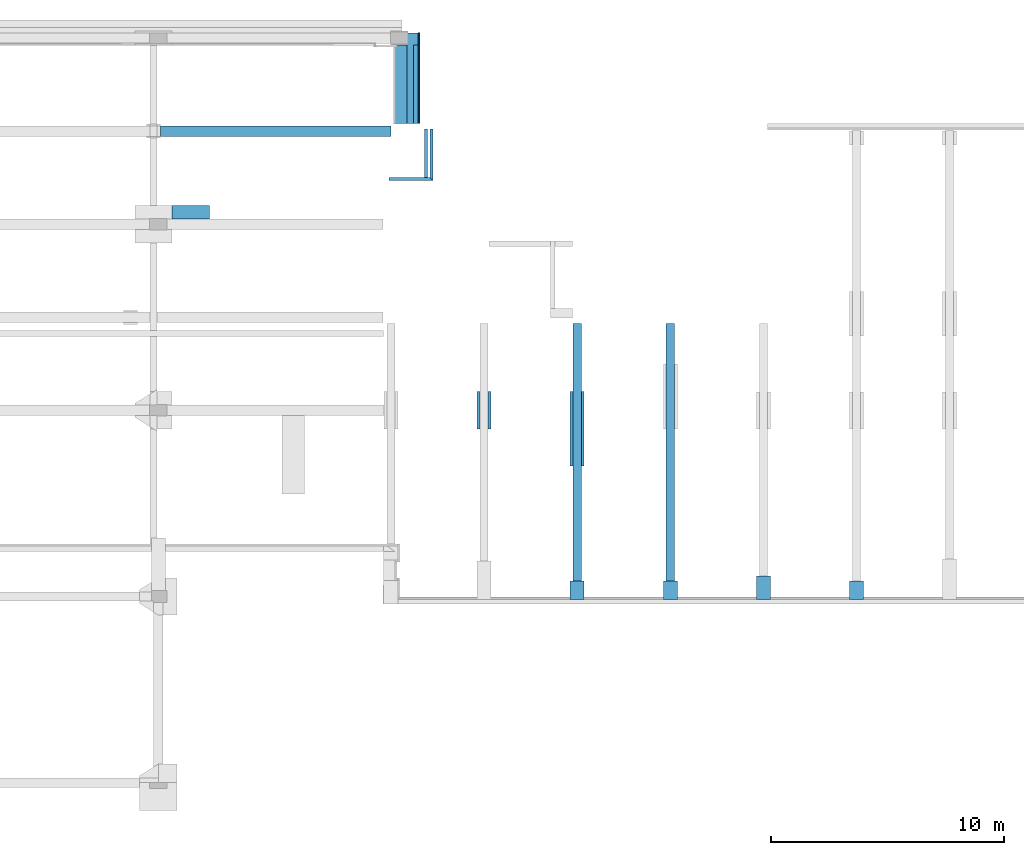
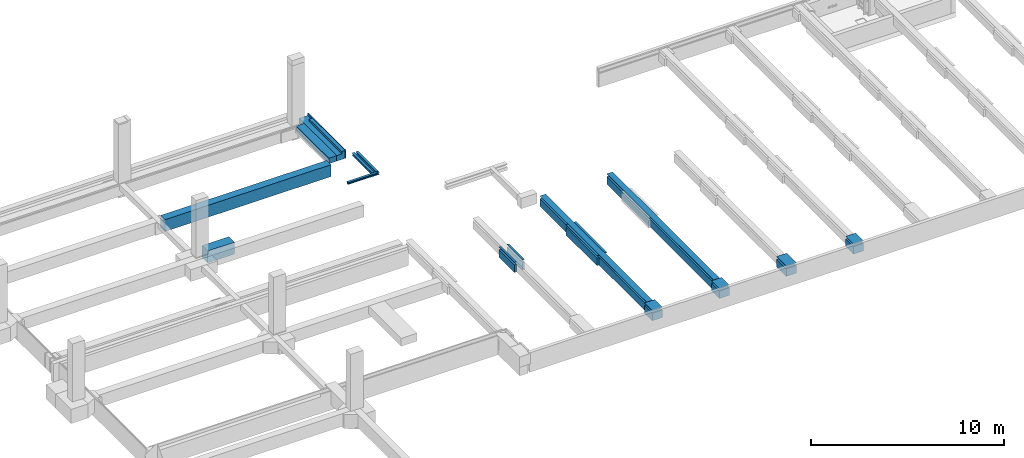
# One storey, part 4 of 17: 16 beams.
"""IFC2X3 building model written with IfcOpenShell, lengths in millimetres."""

import ifcopenshell
import ifcopenshell.guid

model = None  # the IFC model being written
_history = None  # IfcOwnerHistory: only IFC2X3 demands one
_inside = {}  # id of a spatial element -> (the spatial element, [elements in it])
_under = {}  # id of a project, library or spatial element -> (it, [spatial elements below it])
_declared = {}  # id of a project -> (the project, [libraries it declares])
_typed = {}  # id of a type object -> (the type object, [elements of that type])
_made_of = {}  # id of a material, layer set ... -> (it, [elements and type objects made of it])


def new_model(schema):
    """Start an empty IFC model of exactly this schema.

    Asked for "IFC4X3", IfcOpenShell would pick the latest addendum, in which some entities
    have other attributes; the version numbers below select the first issue.
    IFC2X3 requires an IfcOwnerHistory on every rooted entity: one is made here for all.
    """
    global model, _history
    if schema == "IFC4X3":
        model = ifcopenshell.file(schema_version=(4, 3, 0, 0))
    else:
        model = ifcopenshell.file(schema=schema)
    _inside.clear()
    _under.clear()
    _declared.clear()
    _typed.clear()
    _made_of.clear()
    _history = None
    if model.schema == "IFC2X3":
        org = make("IfcOrganization", Name="unknown")
        user = make(
            "IfcPersonAndOrganization",
            ThePerson=make("IfcPerson", FamilyName="unknown"),
            TheOrganization=org,
        )
        app = make(
            "IfcApplication",
            ApplicationDeveloper=org,
            Version="unknown",
            ApplicationFullName="unknown",
            ApplicationIdentifier="unknown",
        )
        _history = make(
            "IfcOwnerHistory",
            OwningUser=user,
            OwningApplication=app,
            ChangeAction="ADDED",
            CreationDate=0,
        )
    return model


def make(cls, **values):
    """One entity of the class cls with the attributes given. An attribute that is None is left unset."""
    return model.create_entity(
        cls, **{name: value for name, value in values.items() if value is not None}
    )


def entity(cls, *values):
    """Any entity or typed value of the class cls, its attributes in the order of the schema. None: left unset."""
    e = model.create_entity(cls)
    for i, value in enumerate(values):
        if value is not None:
            e[i] = value
    return e


def rooted(cls, **values):
    """An entity with a GlobalId (a new one), such as an element, a storey or a relation."""
    return make(cls, GlobalId=ifcopenshell.guid.new(), OwnerHistory=_history, **values)


def si_unit(unit_type, name, prefix=None):
    """IfcSIUnit, for example si_unit("LENGTHUNIT", "METRE", prefix="MILLI")."""
    return make("IfcSIUnit", UnitType=unit_type, Prefix=prefix, Name=name)


def converted_unit(unit_type, name, factor, base, dimensions=None, offset=None):
    """IfcConversionBasedUnit, such as the inch: factor (a typed value) times the base unit."""
    return make(
        "IfcConversionBasedUnit"
        if offset is None
        else "IfcConversionBasedUnitWithOffset",
        ConversionOffset=offset,
        Dimensions=None
        if dimensions is None
        else entity("IfcDimensionalExponents", *dimensions),
        UnitType=unit_type,
        Name=name,
        ConversionFactor=make(
            "IfcMeasureWithUnit", ValueComponent=factor, UnitComponent=base
        ),
    )


def derived_unit(unit_type, elements):
    """IfcDerivedUnit: a product of units, each with its exponent."""
    return make(
        "IfcDerivedUnit",
        Elements=[
            make("IfcDerivedUnitElement", Unit=unit, Exponent=power)
            for unit, power in elements
        ],
        UnitType=unit_type,
    )


def money_unit(currency):
    """IfcMonetaryUnit."""
    return make("IfcMonetaryUnit", Currency=currency)


def assignment(units):
    """IfcUnitAssignment: the units of a project."""
    return None if units is None else make("IfcUnitAssignment", Units=units)


def point(xyz):
    """IfcCartesianPoint."""
    return None if xyz is None else make("IfcCartesianPoint", Coordinates=xyz)


def direction(xyz):
    """IfcDirection."""
    return None if xyz is None else make("IfcDirection", DirectionRatios=xyz)


def frame(location, z_axis=None, x_axis=None):
    """IfcAxis2Placement3D, a coordinate frame: its origin and axes. An axis left out is left unset."""
    return make(
        "IfcAxis2Placement3D",
        Location=point(location),
        Axis=direction(z_axis),
        RefDirection=direction(x_axis),
    )


def origin_with_axes():
    """The frame at (0, 0, 0) with the z axis (0, 0, 1) and the x axis (1, 0, 0) written out."""
    return frame((0.0, 0.0, 0.0), z_axis=(0.0, 0.0, 1.0), x_axis=(1.0, 0.0, 0.0))


def place(relative_to, where):
    """IfcLocalPlacement: puts the frame where relative to a parent placement (None: the world)."""
    return make(
        "IfcLocalPlacement", PlacementRelTo=relative_to, RelativePlacement=where
    )


def context(
    kind, dimensions, precision=None, world=None, true_north=None, identifier=None
):
    """IfcGeometricRepresentationContext, for example the 3D "Model" context."""
    return make(
        "IfcGeometricRepresentationContext",
        ContextIdentifier=identifier,
        ContextType=kind,
        CoordinateSpaceDimension=dimensions,
        Precision=precision,
        WorldCoordinateSystem=world,
        TrueNorth=true_north,
    )


def subcontext(parent, identifier, kind, view, scale=None):
    """IfcGeometricRepresentationSubContext, for example "Body" below "Model"."""
    return make(
        "IfcGeometricRepresentationSubContext",
        ContextIdentifier=identifier,
        ContextType=kind,
        ParentContext=parent,
        TargetScale=scale,
        TargetView=view,
    )


def project(units=None, contexts=None):
    """IfcProject with its units and contexts."""
    return rooted(
        "IfcProject",
        Name="project",
        RepresentationContexts=contexts,
        UnitsInContext=assignment(units),
    )


def spatial(cls, under=None, at=None, **own):
    """A site, building, storey or space (cls), placed at a placement, below another one or the project."""
    s = rooted(cls, ObjectPlacement=at, **own)
    if under is not None:
        _under.setdefault(under.id(), (under, []))[1].append(s)
    return s


def faces_of(points, faces, orient=None, outer=None):
    """IfcFace entities. A face is a list of loops; a loop is a list of indices into points, from 0.

    orient and outer hold one flag for each loop. By default every Orientation is true, the
    first loop of a face is its IfcFaceOuterBound and the others are IfcFaceBound.
    """
    made = []
    for i, loops in enumerate(faces):
        bounds = []
        for j, loop in enumerate(loops):
            is_outer = j == 0 if outer is None else outer[i][j]
            bounds.append(
                make(
                    "IfcFaceOuterBound" if is_outer else "IfcFaceBound",
                    Bound=make("IfcPolyLoop", Polygon=[points[k] for k in loop]),
                    Orientation=True if orient is None else orient[i][j],
                )
            )
        made.append(make("IfcFace", Bounds=bounds))
    return made


def faceted_brep(points, faces, orient=None, outer=None, voids=None):
    """IfcFacetedBrep: a solid bounded by flat faces; with voids (closed shells), ...WithVoids."""
    shared = [point(p) for p in points]
    hull = make("IfcClosedShell", CfsFaces=faces_of(shared, faces, orient, outer))
    if voids is None:
        return make("IfcFacetedBrep", Outer=hull)
    return make(
        "IfcFacetedBrepWithVoids",
        Outer=hull,
        Voids=[
            make(cls, CfsFaces=faces_of(shared, fs, o, b)) for cls, fs, o, b in voids
        ],
    )


def shape(context_of_items, identifier, shape_type, items):
    """IfcShapeRepresentation: the items that make up one representation, for example the "Body"."""
    return make(
        "IfcShapeRepresentation",
        ContextOfItems=context_of_items,
        RepresentationIdentifier=identifier,
        RepresentationType=shape_type,
        Items=items,
    )


def material(Name=None, Category=None):
    """IfcMaterial."""
    return make("IfcMaterial", Name=Name, Category=Category)


def made_of(thing, what):
    """Note that an element or type object is made of a material, layer set ...; save() writes the relation."""
    if what is not None:
        _made_of.setdefault(what.id(), (what, []))[1].append(thing)
    return thing


def type_object(cls, material=None, **own):
    """A type object (cls), such as IfcWallType, which elements share."""
    return made_of(rooted(cls, **own), material)


def element(
    cls,
    number,
    at=None,
    inside=None,
    cuts=None,
    type_object=None,
    material=None,
    context=None,
    identifier="Body",
    shape_type=None,
    held_by="IfcProductDefinitionShape",
    body=None,
    shapes=None,
    **own,
):
    """One element of the class cls, such as IfcWall. Its Tag is "e" and its number.

    at: its placement. inside: the storey or other place that contains it. cuts: it is an
    opening in that element (IfcRelVoidsElement). A single representation is given by context,
    identifier, shape_type and body (its items); several are given by shapes. held_by: the class
    of the entity that holds the representations. save() writes the other relations.
    """
    e = rooted(cls, Tag="e%d" % number, ObjectPlacement=at, **own)
    if body is not None:
        shapes = [shape(context, identifier, shape_type, body)]
    if shapes is not None:
        e.Representation = make(held_by, Representations=shapes)
    if inside is not None:
        _inside.setdefault(inside.id(), (inside, []))[1].append(e)
    if cuts is not None:
        rooted(
            "IfcRelVoidsElement", RelatingBuildingElement=cuts, RelatedOpeningElement=e
        )
    if type_object is not None:
        _typed.setdefault(type_object.id(), (type_object, []))[1].append(e)
    return made_of(e, material)


def aggregate(whole, parts):
    """IfcRelAggregates: a whole, such as a stair, and the parts it consists of."""
    return rooted("IfcRelAggregates", RelatingObject=whole, RelatedObjects=parts)


def save(model, path):
    """Write the relations noted so far, then the file.

    IfcRelAggregates (storeys below a building ...), IfcRelContainedInSpatialStructure (elements
    in a storey), IfcRelDefinesByType, IfcRelAssociatesMaterial and IfcRelDeclares: one each for
    every whole, place, type object, material and project.
    """
    for whole, parts in _under.values():
        aggregate(whole, parts)
    for where, things in _inside.values():
        rooted(
            "IfcRelContainedInSpatialStructure",
            RelatedElements=things,
            RelatingStructure=where,
        )
    for kind, things in _typed.values():
        rooted("IfcRelDefinesByType", RelatedObjects=things, RelatingType=kind)
    for what, things in _made_of.values():
        rooted("IfcRelAssociatesMaterial", RelatedObjects=things, RelatingMaterial=what)
    for by, libraries in _declared.values():
        rooted("IfcRelDeclares", RelatingContext=by, RelatedDefinitions=libraries)
    model.write(path)


model = new_model("IFC2X3")

# Units and contexts
model_context = context("Model", 3, precision=0.01, world=origin_with_axes(), true_north=direction((0.0, 1.0)))
body_context = subcontext(model_context, "Body", "Model", "MODEL_VIEW")
ifc_project = project(units=[si_unit("LENGTHUNIT", "METRE", prefix="MILLI"), si_unit("AREAUNIT", "SQUARE_METRE"), si_unit("VOLUMEUNIT", "CUBIC_METRE"), converted_unit("PLANEANGLEUNIT", "DEGREE", entity("IfcPlaneAngleMeasure", 0.0174532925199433), si_unit("PLANEANGLEUNIT", "RADIAN"), dimensions=[0, 0, 0, 0, 0, 0, 0]), money_unit("EUR"), converted_unit("TIMEUNIT", "Year", entity("IfcTimeMeasure", 31557600.0), si_unit("TIMEUNIT", "SECOND"), dimensions=[0, 0, 1, 0, 0, 0, 0]), si_unit("MASSUNIT", "GRAM", prefix="KILO"), si_unit("THERMODYNAMICTEMPERATUREUNIT", "DEGREE_CELSIUS"), si_unit("LUMINOUSINTENSITYUNIT", "LUMEN"), si_unit("ENERGYUNIT", "JOULE", prefix="MEGA"), derived_unit("THERMALCONDUCTANCEUNIT", [(si_unit("POWERUNIT", "WATT"), 1), (si_unit("LENGTHUNIT", "METRE"), -1), (si_unit("THERMODYNAMICTEMPERATUREUNIT", "KELVIN"), -1)]), derived_unit("SPECIFICHEATCAPACITYUNIT", [(si_unit("ENERGYUNIT", "JOULE"), 1), (si_unit("MASSUNIT", "GRAM", prefix="KILO"), -1), (si_unit("THERMODYNAMICTEMPERATUREUNIT", "KELVIN"), -1)]), derived_unit("MASSDENSITYUNIT", [(si_unit("MASSUNIT", "GRAM", prefix="KILO"), 1), (si_unit("VOLUMEUNIT", "CUBIC_METRE"), -1)])], contexts=[model_context])

# Site, building, storey
site_placement = place(None, origin_with_axes())
site = spatial("IfcSite", under=ifc_project, at=site_placement, Name="<site naam>", CompositionType="ELEMENT")
building_placement = place(site_placement, origin_with_axes())
building = spatial("IfcBuilding", under=site, at=building_placement, Name="<Naam gebouw>", CompositionType="ELEMENT")
storey_placement = place(building_placement, frame((0.0, 0.0, -1100.0), z_axis=(0.0, 0.0, 1.0), x_axis=(1.0, 0.0, 0.0)))
storey = spatial("IfcBuildingStorey", under=building, at=storey_placement, Name="-1 Fundering", CompositionType="ELEMENT", Elevation=-1100.0)

# Beams
ifc_material_1 = material(Name="beton_gewapend C")
beam_type_1 = type_object("IfcBeamType", Name="beton_gewapend C 600 x 650", PredefinedType="BEAM")
beam_1_placement = place(storey_placement, frame((32000.00000000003, 675.0000000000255, 1070.0), z_axis=(0.0, 0.0, 1.0), x_axis=(-1.0, 0.0, 0.0)))
element("IfcBeam", 1, at=beam_1_placement, inside=storey, type_object=beam_type_1, material=ifc_material_1, Name="28_Balk_beton_gewapend", ObjectType="BEAM", context=body_context, shape_type="Brep", body=[
    faceted_brep([(300.0000000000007, 0.0, -650.0000000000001), (300.0000000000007, 0.0, -170.0), (-299.9999999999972, 0.0, -170.0), (-299.9999999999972, 0.0, -650.0000000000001), (300.0000000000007, 800.0000000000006, -650.0000000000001), (300.0000000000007, 800.0000000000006, -170.0), (-299.9999999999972, 800.0000000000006, -170.0), (-299.9999999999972, 800.0000000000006, -650.0000000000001)], [[[0, 1, 2, 3]], [[4, 5, 1, 0]], [[5, 6, 2, 1]], [[3, 2, 6, 7]], [[4, 0, 3, 7]], [[7, 6, 5, 4]]]),
    faceted_brep([(-299.9999999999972, 800.0000000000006, 0.0), (-299.9999999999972, 800.0000000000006, -20.00000000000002), (-299.9999999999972, 0.0, -20.00000000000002), (-299.9999999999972, 0.0, 0.0), (300.0000000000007, 800.0000000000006, 0.0), (300.0000000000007, 800.0000000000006, -20.00000000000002), (300.0000000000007, 0.0, -20.00000000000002), (300.0000000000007, 0.0, 0.0)], [[[0, 1, 2, 3]], [[4, 5, 1, 0]], [[5, 6, 2, 1]], [[3, 2, 6, 7]], [[0, 3, 7, 4]], [[7, 6, 5, 4]]]),
])
beam_2_placement = place(storey_placement, frame((27999.93948843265, 875.702911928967, 1070.0), z_axis=(0.0, 0.0, 1.0), x_axis=(-0.9999999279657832, -0.0003795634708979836, 0.0)))
element("IfcBeam", 2, at=beam_2_placement, inside=storey, type_object=beam_type_1, material=ifc_material_1, Name="28_Balk_beton_gewapend", ObjectType="BEAM", context=body_context, shape_type="Brep", body=[
    faceted_brep([(-300.0000000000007, 0.0, -650.0000000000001), (-300.0000000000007, 0.0, -170.0), (-299.9999999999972, 999.8860589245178, -170.0), (-299.9999999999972, 999.8860589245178, -650.0000000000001), (300.0000000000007, 0.0, -650.0000000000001), (300.0000000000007, 0.0, -170.0), (300.0000000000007, 999.8860589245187, -170.0), (300.0000000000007, 999.8860589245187, -650.0000000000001)], [[[0, 1, 2, 3]], [[4, 5, 1, 0]], [[5, 6, 2, 1]], [[3, 2, 6, 7]], [[4, 0, 3, 7]], [[7, 6, 5, 4]]]),
    faceted_brep([(300.0000000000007, 999.8860589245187, 0.0), (300.0000000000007, 999.8860589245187, -20.00000000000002), (-299.9999999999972, 999.8860589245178, -20.00000000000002), (-299.9999999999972, 999.8860589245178, 0.0), (300.0000000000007, 0.0, 0.0), (300.0000000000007, 0.0, -20.00000000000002), (-300.0000000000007, 0.0, -20.00000000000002), (-300.0000000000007, 0.0, 0.0)], [[[0, 1, 2, 3]], [[4, 5, 1, 0]], [[5, 6, 2, 1]], [[3, 2, 6, 7]], [[7, 4, 0, 3]], [[7, 6, 5, 4]]]),
])
beam_3_placement = place(storey_placement, frame((24000.00000000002, 675.0000000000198, 1070.0), z_axis=(0.0, 0.0, 1.0), x_axis=(-1.0, 0.0, 0.0)))
element("IfcBeam", 3, at=beam_3_placement, inside=storey, type_object=beam_type_1, material=ifc_material_1, Name="28_Balk_beton_gewapend", ObjectType="BEAM", context=body_context, shape_type="Brep", body=[
    faceted_brep([(300.0000000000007, 0.0, -650.0000000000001), (300.0000000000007, 0.0, -170.0), (-300.0000000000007, 0.0, -170.0), (-300.0000000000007, 0.0, -650.0000000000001), (300.0000000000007, 799.9999999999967, -650.0000000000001), (300.0000000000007, 799.9999999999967, -170.0), (-300.0000000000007, 799.9999999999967, -170.0), (-300.0000000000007, 799.9999999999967, -650.0000000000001)], [[[0, 1, 2, 3]], [[4, 5, 1, 0]], [[5, 6, 2, 1]], [[3, 2, 6, 7]], [[0, 3, 7, 4]], [[7, 6, 5, 4]]]),
    faceted_brep([(-300.0000000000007, 799.9999999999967, 0.0), (-300.0000000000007, 799.9999999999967, -20.00000000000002), (-300.0000000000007, 0.0, -20.00000000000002), (-300.0000000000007, 0.0, 0.0), (300.0000000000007, 799.9999999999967, 0.0), (300.0000000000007, 799.9999999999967, -20.00000000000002), (300.0000000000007, 0.0, -20.00000000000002), (300.0000000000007, 0.0, 0.0)], [[[0, 1, 2, 3]], [[4, 5, 1, 0]], [[5, 6, 2, 1]], [[3, 2, 6, 7]], [[3, 7, 4, 0]], [[7, 6, 5, 4]]]),
])
beam_4_placement = place(storey_placement, frame((20000.00000000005, 8800.000000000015, 1070.0), z_axis=(0.0, 0.0, 1.0), x_axis=(-1.0, 0.0, 0.0)))
element("IfcBeam", 4, at=beam_4_placement, inside=storey, type_object=beam_type_1, material=ifc_material_1, Name="28_Balk_beton_gewapend", ObjectType="BEAM", context=body_context, shape_type="Brep", body=[
    faceted_brep([(300.0000000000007, 0.0, -650.0000000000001), (300.0000000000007, 0.0, -170.0), (174.9999999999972, 0.0, -170.0), (174.9999999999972, 0.0, -650.0000000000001), (300.0000000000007, 3200.000000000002, -650.0000000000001), (300.0000000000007, 3200.000000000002, -170.0), (175.0000000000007, 3200.000000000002, -170.0), (175.0000000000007, 3200.000000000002, -650.0000000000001)], [[[0, 1, 2, 3]], [[4, 5, 1, 0]], [[5, 6, 2, 1]], [[3, 2, 6, 7]], [[7, 4, 0, 3]], [[7, 6, 5, 4]]]),
    faceted_brep([(-175.0000000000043, 0.0, -650.0000000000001), (-175.0000000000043, 0.0, -170.0), (-300.0000000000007, 0.0, -170.0), (-300.0000000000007, 0.0, -650.0000000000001), (-175.0000000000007, 3200.000000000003, -650.0000000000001), (-175.0000000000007, 3200.000000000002, -170.0), (-300.0000000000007, 3200.000000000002, -170.0), (-300.0000000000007, 3200.000000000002, -650.0000000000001)], [[[0, 1, 2, 3]], [[4, 5, 1, 0]], [[5, 6, 2, 1]], [[3, 2, 6, 7]], [[0, 3, 7, 4]], [[7, 6, 5, 4]]]),
    faceted_brep([(175.0000000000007, 3200.000000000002, 0.0), (175.0000000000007, 3200.000000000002, -20.00000000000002), (174.9999999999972, 0.0, -20.00000000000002), (174.9999999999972, 0.0, 0.0), (300.0000000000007, 3200.000000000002, 0.0), (300.0000000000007, 3200.000000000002, -20.00000000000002), (300.0000000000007, 0.0, -20.00000000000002), (300.0000000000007, 0.0, 0.0)], [[[0, 1, 2, 3]], [[4, 5, 1, 0]], [[5, 6, 2, 1]], [[3, 2, 6, 7]], [[3, 7, 4, 0]], [[7, 6, 5, 4]]]),
    faceted_brep([(-300.0000000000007, 3200.000000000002, 0.0), (-300.0000000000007, 3200.000000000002, -20.00000000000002), (-300.0000000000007, 0.0, -20.00000000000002), (-300.0000000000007, 0.0, 0.0), (-175.0000000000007, 3200.000000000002, 0.0), (-175.0000000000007, 3200.000000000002, -20.00000000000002), (-175.0000000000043, 0.0, -20.00000000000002), (-175.0000000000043, 0.0, 0.0)], [[[0, 1, 2, 3]], [[4, 5, 1, 0]], [[5, 6, 2, 1]], [[3, 2, 6, 7]], [[4, 0, 3, 7]], [[7, 6, 5, 4]]]),
])
beam_5_placement = place(storey_placement, frame((20000.00000000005, 675.0000000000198, 1070.0), z_axis=(0.0, 0.0, 1.0), x_axis=(-1.0, 0.0, 0.0)))
element("IfcBeam", 5, at=beam_5_placement, inside=storey, type_object=beam_type_1, material=ifc_material_1, Name="28_Balk_beton_gewapend", ObjectType="BEAM", context=body_context, shape_type="Brep", body=[
    faceted_brep([(300.0000000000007, 0.0, -650.0000000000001), (300.0000000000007, 0.0, -170.0), (-300.0000000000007, 0.0, -170.0), (-300.0000000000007, 0.0, -650.0000000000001), (300.0000000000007, 799.9999999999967, -650.0000000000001), (300.0000000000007, 799.9999999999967, -170.0), (-300.0000000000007, 799.9999999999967, -170.0), (-300.0000000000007, 799.9999999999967, -650.0000000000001)], [[[0, 1, 2, 3]], [[4, 5, 1, 0]], [[5, 6, 2, 1]], [[3, 2, 6, 7]], [[0, 3, 7, 4]], [[7, 6, 5, 4]]]),
    faceted_brep([(-300.0000000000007, 799.9999999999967, 0.0), (-300.0000000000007, 799.9999999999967, -20.00000000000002), (-300.0000000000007, 0.0, -20.00000000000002), (-300.0000000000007, 0.0, 0.0), (300.0000000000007, 799.9999999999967, 0.0), (300.0000000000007, 799.9999999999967, -20.00000000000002), (300.0000000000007, 0.0, -20.00000000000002), (300.0000000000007, 0.0, 0.0)], [[[0, 1, 2, 3]], [[4, 5, 1, 0]], [[5, 6, 2, 1]], [[3, 2, 6, 7]], [[3, 7, 4, 0]], [[7, 6, 5, 4]]]),
])
beam_6_placement = place(storey_placement, frame((16000.00000000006, 8800.000000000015, 1070.0), z_axis=(0.0, 0.0, 1.0), x_axis=(-1.0, 0.0, 0.0)))
element("IfcBeam", 6, at=beam_6_placement, inside=storey, type_object=beam_type_1, material=ifc_material_1, Name="28_Balk_beton_gewapend", ObjectType="BEAM", context=body_context, shape_type="Brep", body=[
    faceted_brep([(300.0000000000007, 0.0, -650.0000000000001), (300.0000000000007, 0.0, -170.0), (175.0000000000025, 0.0, -170.0), (175.0000000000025, 0.0, -650.0000000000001), (300.0000000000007, 1599.999999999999, -650.0000000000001), (300.0000000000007, 1599.999999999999, -170.0), (175.0000000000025, 1600.0, -170.0), (175.0000000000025, 1599.999999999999, -650.0000000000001)], [[[0, 1, 2, 3]], [[4, 5, 1, 0]], [[5, 6, 2, 1]], [[3, 2, 6, 7]], [[7, 4, 0, 3]], [[7, 6, 5, 4]]]),
    faceted_brep([(-175.0000000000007, 0.0, -650.0000000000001), (-175.0000000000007, 0.0, -170.0), (-300.0000000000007, 0.0, -170.0), (-300.0000000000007, 0.0, -650.0000000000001), (-175.0000000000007, 1599.999999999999, -650.0000000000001), (-175.0000000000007, 1599.999999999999, -170.0), (-300.0000000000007, 1599.999999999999, -170.0), (-300.0000000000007, 1599.999999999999, -650.0000000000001)], [[[0, 1, 2, 3]], [[4, 5, 1, 0]], [[5, 6, 2, 1]], [[3, 2, 6, 7]], [[0, 3, 7, 4]], [[7, 6, 5, 4]]]),
    faceted_brep([(175.0000000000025, 1600.0, 0.0), (175.0000000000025, 1600.0, -20.00000000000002), (175.0000000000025, 0.0, -20.00000000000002), (175.0000000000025, 0.0, 0.0), (300.0000000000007, 1599.999999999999, 0.0), (300.0000000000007, 1599.999999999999, -20.00000000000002), (300.0000000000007, 0.0, -20.00000000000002), (300.0000000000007, 0.0, 0.0)], [[[0, 1, 2, 3]], [[4, 5, 1, 0]], [[5, 6, 2, 1]], [[3, 2, 6, 7]], [[3, 7, 4, 0]], [[7, 6, 5, 4]]]),
    faceted_brep([(-300.0000000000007, 1599.999999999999, 0.0), (-300.0000000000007, 1599.999999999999, -20.00000000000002), (-300.0000000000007, 0.0, -20.00000000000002), (-300.0000000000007, 0.0, 0.0), (-175.0000000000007, 1599.999999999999, 0.0), (-175.0000000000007, 1599.999999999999, -20.00000000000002), (-175.0000000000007, 0.0, -20.00000000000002), (-175.0000000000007, 0.0, 0.0)], [[[0, 1, 2, 3]], [[4, 5, 1, 0]], [[5, 6, 2, 1]], [[3, 2, 6, 7]], [[4, 0, 3, 7]], [[7, 6, 5, 4]]]),
])
beam_type_2 = type_object("IfcBeamType", Name="beton_gewapend C 350 x 650", PredefinedType="BEAM")
for number, where, z_axis, x_axis, name in (
    (7, (24000.00000000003, 11725.00000000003, 1070.0), (0.0, 0.0, 1.0), (-1.0, 0.0, 0.0), "28_Balk_beton_gewapend"),
    (8, (20000.00000000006, 11725.00000000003, 1070.0), (0.0, 0.0, 1.0), (-1.0, 0.0, 0.0), "28_Balk_beton_gewapend"),
):
    element("IfcBeam", number, at=place(storey_placement, frame(where, z_axis=z_axis, x_axis=x_axis)), inside=storey, type_object=beam_type_2, material=ifc_material_1, Name=name, ObjectType="BEAM", context=body_context, shape_type="Brep", body=[
        faceted_brep([(175.0000000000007, 0.0, -650.0000000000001), (175.0000000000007, 0.0, -170.0), (-175.0000000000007, 0.0, -170.0), (-175.0000000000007, 0.0, -650.0000000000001), (175.0000000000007, 11050.00000000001, -650.0000000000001), (175.0000000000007, 11050.00000000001, -170.0), (-175.0000000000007, 11050.00000000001, -170.0), (-175.0000000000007, 11050.00000000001, -650.0000000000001)], [[[0, 1, 2, 3]], [[4, 5, 1, 0]], [[5, 6, 2, 1]], [[3, 2, 6, 7]], [[0, 3, 7, 4]], [[7, 6, 5, 4]]]),
        faceted_brep([(-175.0000000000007, 11050.00000000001, 0.0), (-175.0000000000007, 11050.00000000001, -20.00000000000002), (-175.0000000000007, 0.0, -20.00000000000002), (-175.0000000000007, 0.0, 0.0), (175.0000000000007, 11050.00000000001, 0.0), (175.0000000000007, 11050.00000000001, -20.00000000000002), (175.0000000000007, 0.0, -20.00000000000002), (175.0000000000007, 0.0, 0.0)], [[[0, 1, 2, 3]], [[4, 5, 1, 0]], [[5, 6, 2, 1]], [[3, 2, 6, 7]], [[3, 7, 4, 0]], [[7, 6, 5, 4]]]),
    ])
beam_type_3 = type_object("IfcBeamType", Name="beton_gewapend C 450 x 900", PredefinedType="BEAM")
beam_7_placement = place(storey_placement, frame((2095.917508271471, 20000.00000000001, 1050.0), z_axis=(0.0, 0.0, 1.0), x_axis=(0.0, -1.0, 0.0)))
element("IfcBeam", 9, at=beam_7_placement, inside=storey, type_object=beam_type_3, material=ifc_material_1, Name="28_Balk_beton_gewapend", ObjectType="BEAM", context=body_context, shape_type="Brep", body=[
    faceted_brep([(-225.0000000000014, 0.0, -900.0), (-225.0000000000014, 0.0, -150.0), (-225.0065623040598, 9519.082490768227, -150.0), (-225.0065623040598, 9904.082491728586, -150.0), (-225.0000000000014, 9904.082491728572, -900.0), (225.0000000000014, 0.0, -900.0), (225.0000000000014, 0.0, -150.0), (224.9999999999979, 9904.082491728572, -150.0), (224.9999999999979, 9904.082491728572, -900.0)], [[[0, 1, 2, 3, 4]], [[5, 6, 1, 0]], [[6, 7, 3, 2, 1]], [[4, 3, 7, 8]], [[5, 0, 4, 8]], [[8, 7, 6, 5]]]),
])
beam_type_4 = type_object("IfcBeamType", Name="beton_gewapend C 580 x 900", PredefinedType="BEAM")
beam_8_placement = place(storey_placement, frame((4195.917508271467, 16800.0, 1050.0), z_axis=(0.0, 0.0, 1.0), x_axis=(0.0, 1.0, 0.0)))
element("IfcBeam", 10, at=beam_8_placement, inside=storey, type_object=beam_type_4, material=ifc_material_1, Name="28_Balk_beton_gewapend", ObjectType="BEAM", context=body_context, shape_type="Brep", body=[
    faceted_brep([(0.0, 1599.999999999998, -900.0), (0.0, 1599.999999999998, -150.0), (0.0, 0.0, -150.0), (0.0, 0.0, -900.0), (-579.9999999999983, 1599.999999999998, -900.0), (-579.9999999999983, 1599.999999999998, -150.0), (-579.9999999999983, 0.0, -150.0), (-579.9999999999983, 0.0, -900.0)], [[[0, 1, 2, 3]], [[4, 5, 1, 0]], [[5, 6, 2, 1]], [[3, 2, 6, 7]], [[3, 7, 4, 0]], [[7, 6, 5, 4]]]),
])
beam_type_5 = type_object("IfcBeamType", Name="beton_gewapend C 475 x 350", PredefinedType="BEAM")
beam_9_placement = place(storey_placement, frame((12675.41646607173, 24000.00000000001, 900.0003263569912), z_axis=(0.0, 0.0, 1.0), x_axis=(-1.0, 0.0, 0.0)))
element("IfcBeam", 11, at=beam_9_placement, inside=storey, type_object=beam_type_5, material=ifc_material_1, Name="28_Balk_beton_gewapend", ObjectType="BEAM", context=body_context, shape_type="Brep", body=[
    faceted_brep([(0.0, 3664.999999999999, 0.0), (0.0, 3664.999999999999, -350.0006679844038), (0.0, 300.0000000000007, -350.0007261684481), (0.0, 300.0000000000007, 0.0), (475.0004022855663, 3664.999999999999, 0.0), (475.0004022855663, 3664.999999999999, -350.0006679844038), (475.0004022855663, 299.9999999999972, -350.0007261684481), (475.0004022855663, 299.9999999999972, 0.0)], [[[0, 1, 2, 3]], [[1, 0, 4, 5]], [[1, 5, 6, 2]], [[2, 6, 7, 3]], [[4, 0, 3, 7]], [[5, 4, 7, 6]]]),
])
ifc_material_2 = material(Name="staal C")
beam_type_6 = type_object("IfcBeamType", Name="Profiel H algemeen 140 x 133", PredefinedType="BEAM")
beam_10_placement = place(storey_placement, frame((13739.9999999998, 20085.00000000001, 883.4993932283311), z_axis=(0.0, 0.0, 1.0), x_axis=(-1.0, 0.0, 0.0)))
element("IfcBeam", 12, at=beam_10_placement, inside=storey, type_object=beam_type_6, material=ifc_material_2, Name="28_Balk_Profiel", ObjectType="BEAM", context=body_context, shape_type="Brep", body=[
    faceted_brep([(57.5006067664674, 2087.499393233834, -58.00060676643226), (3.000000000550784, 2141.999999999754, -58.00060676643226), (3.000000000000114, 2087.499393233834, -58.00060676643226), (57.50060676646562, 2087.499393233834, -66.50060677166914), (3.000000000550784, 2141.999999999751, -66.50060677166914), (3.000000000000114, 2087.499393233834, -66.50060677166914)], [[[0, 1, 2]], [[0, 3, 4, 1]], [[4, 5, 2, 1]], [[5, 3, 0, 2]], [[4, 3, 5]]]),
    faceted_brep([(-70.00000000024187, 2215.000000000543, -58.00060676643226), (-70.00000000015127, 2215.000000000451, -66.50060677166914), (-70.00000000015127, 2211.500606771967, -66.50060677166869), (-70.00000000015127, 2211.500606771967, -58.00060676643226), (-66.50060677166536, 2211.500606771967, -58.00060676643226), (-66.50060677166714, 2211.500606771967, -66.50060677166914)], [[[0, 1, 2, 3]], [[1, 0, 4, 5]], [[2, 1, 5]], [[2, 5, 4, 3]], [[4, 0, 3]]]),
    faceted_brep([(-70.00000000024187, 2202.500606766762, -58.00060676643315), (-70.00000000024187, 2087.499393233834, -58.00060676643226), (-3.000000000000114, 2087.499393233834, -58.00060676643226), (-3.000000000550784, 2148.000000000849, -58.00060676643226), (-57.50060676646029, 2202.500606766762, -58.00060676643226), (-70.00000000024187, 2202.500606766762, -66.50060677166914), (-70.00000000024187, 2087.499393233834, -66.50060677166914), (-3.000000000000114, 2087.499393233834, -66.50060677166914), (-3.000000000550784, 2148.000000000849, -66.50060677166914), (-57.50060676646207, 2202.500606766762, -66.50060677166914)], [[[0, 1, 2, 3, 4]], [[0, 5, 6, 1]], [[6, 7, 2, 1]], [[7, 8, 3, 2]], [[9, 4, 3, 8]], [[4, 9, 5, 0]], [[9, 8, 7, 6, 5]]]),
    faceted_brep([(70.00000000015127, 0.0, 66.50060677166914), (70.00000000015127, 2075.000000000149, 66.50060677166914), (66.50060677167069, 2078.499393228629, 66.50060677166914), (-70.00000000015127, 2078.499393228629, 66.50060677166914), (-70.00000000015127, 0.0, 66.50060677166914), (70.00000000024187, 0.0, 58.00060676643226), (70.00000000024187, 2075.00000000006, 58.00060676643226), (66.50060677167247, 2078.499393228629, 58.00060676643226), (-2.750000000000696, 2078.499393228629, -58.00060676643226), (-2.750000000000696, 2078.499393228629, 58.00060676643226), (-70.00000000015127, 2078.499393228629, 58.00060676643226), (2.750000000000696, 2078.499393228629, 58.00060676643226), (2.750000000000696, 2078.499393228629, -58.00060676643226), (66.50060677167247, 2078.499393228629, -58.00060676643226), (66.50060677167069, 2078.499393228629, -66.50060677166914), (-70.00000000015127, 2078.499393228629, -66.50060677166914), (-70.00000000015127, 2078.499393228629, -58.00060676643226), (-70.00000000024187, 0.0, 58.00060676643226), (-2.750000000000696, 0.0, 58.00060676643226), (-2.750000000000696, 0.0, -58.00060676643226), (-70.00000000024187, 0.0, -58.00060676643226), (-70.00000000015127, 0.0, -66.50060677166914), (70.00000000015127, 0.0, -66.50060677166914), (70.00000000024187, 0.0, -58.00060676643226), (2.750000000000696, 0.0, -58.00060676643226), (2.750000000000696, 0.0, 58.00060676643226), (70.00000000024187, 2075.00000000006, -58.00060676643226), (70.00000000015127, 2075.000000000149, -66.50060677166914)], [[[0, 1, 2, 3, 4]], [[1, 0, 5, 6]], [[1, 6, 7, 2]], [[8, 9, 10, 3, 2, 7, 11, 12, 13, 14, 15, 16]], [[17, 4, 3, 10]], [[18, 19, 20, 21, 22, 23, 24, 25, 5, 0, 4, 17]], [[5, 25, 11, 7, 6]], [[19, 18, 9, 8]], [[18, 17, 10, 9]], [[25, 24, 12, 11]], [[23, 26, 13, 12, 24]], [[26, 27, 14, 13]], [[22, 21, 15, 14, 27]], [[21, 20, 16, 15]], [[20, 19, 8, 16]], [[26, 23, 22, 27]]]),
    faceted_brep([(3.000000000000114, 2141.999999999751, 66.50060677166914), (3.000000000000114, 2087.499393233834, 66.50060677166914), (57.50060676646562, 2087.499393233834, 66.50060677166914), (3.000000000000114, 2087.499393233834, 58.00060676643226), (3.000000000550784, 2141.999999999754, 58.00060676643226), (57.5006067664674, 2087.499393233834, 58.00060676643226)], [[[0, 1, 2]], [[3, 1, 0, 4]], [[5, 2, 1, 3]], [[5, 4, 0, 2]], [[5, 3, 4]]]),
    faceted_brep([(-70.00000000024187, 2215.000000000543, 58.00060676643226), (-70.00000000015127, 2211.500606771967, 58.0006067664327), (-70.00000000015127, 2211.500606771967, 66.50060677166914), (-70.00000000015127, 2215.000000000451, 66.50060677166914), (-66.50060677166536, 2211.500606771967, 58.00060676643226), (-66.50060677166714, 2211.500606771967, 66.50060677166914)], [[[0, 1, 2, 3]], [[0, 4, 1]], [[4, 5, 2, 1]], [[3, 2, 5]], [[3, 5, 4, 0]]]),
    faceted_brep([(-70.00000000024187, 2087.499393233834, 66.50060677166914), (-3.000000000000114, 2087.499393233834, 66.50060677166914), (-3.000000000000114, 2148.000000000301, 66.50060677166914), (-57.50060676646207, 2202.500606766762, 66.50060677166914), (-70.00000000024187, 2202.500606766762, 66.50060677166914), (-3.000000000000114, 2087.499393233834, 58.00060676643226), (-70.00000000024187, 2087.499393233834, 58.00060676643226), (-3.000000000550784, 2148.000000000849, 58.00060676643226), (-57.50060676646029, 2202.500606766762, 58.00060676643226), (-70.00000000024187, 2202.500606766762, 58.00060676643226)], [[[0, 1, 2, 3, 4]], [[5, 1, 0, 6]], [[7, 2, 1, 5]], [[3, 2, 7, 8]], [[8, 9, 4, 3]], [[9, 6, 0, 4]], [[7, 5, 6, 9, 8]]]),
])
beam_11_placement = place(storey_placement, frame((11915.00000000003, 17939.99999999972, 883.4993932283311), z_axis=(0.0, 0.0, 1.0), x_axis=(0.0, -1.0, 0.0)))
element("IfcBeam", 13, at=beam_11_placement, inside=storey, type_object=beam_type_6, material=ifc_material_2, Name="28_Balk_Profiel", ObjectType="BEAM", context=body_context, shape_type="Brep", body=[
    faceted_brep([(-57.50060676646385, 1767.499393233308, -58.00060676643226), (-3.000000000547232, 1821.999999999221, -58.00060676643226), (-3.000000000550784, 1821.999999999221, -66.50060677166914), (-57.50060676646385, 1767.49939323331, -66.50060677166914), (-2.74999999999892, 0.0, -58.00060676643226), (-2.74999999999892, 1821.999999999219, -58.00060676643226), (-57.50060676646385, 1754.99999999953, -58.00060676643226), (-66.50060677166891, 1754.999999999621, -58.00060676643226), (-66.50060677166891, 1758.499393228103, -58.00060676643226), (-70.00000000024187, 1754.99999999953, -58.00060676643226), (-70.00000000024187, 0.0, -58.00060676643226), (-2.74999999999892, 1821.999999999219, 58.00060676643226), (-3.000000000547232, 1821.999999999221, 58.00060676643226), (-3.000000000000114, 1821.999999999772, 66.50060677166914), (57.50060676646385, 1821.999999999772, 66.50060677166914), (57.50060676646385, 1821.999999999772, 58.00060676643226), (2.74999999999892, 1821.999999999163, 58.00060676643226), (2.74999999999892, 1821.999999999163, -58.00060676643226), (57.50060676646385, 1821.999999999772, -58.00060676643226), (57.50060676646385, 1821.999999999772, -66.50060677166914), (57.50060676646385, 1754.99999999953, -66.50060677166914), (66.50060677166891, 1754.999999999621, -66.50060677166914), (66.50060677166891, 1891.500606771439, -66.50060677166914), (70.00000000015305, 1894.999999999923, -66.50060677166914), (70.00000000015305, 0.0, -66.50060677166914), (-70.00000000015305, 0.0, -66.50060677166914), (-70.00000000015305, 1754.999999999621, -66.50060677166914), (-66.50060677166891, 1758.499393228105, -66.50060677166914), (-66.50060677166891, 1754.999999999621, -66.50060677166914), (-57.50060676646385, 1754.99999999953, -66.50060677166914), (-2.74999999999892, 0.0, 58.00060676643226), (70.00000000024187, 0.0, -58.00060676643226), (2.74999999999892, 0.0, -58.00060676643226), (2.74999999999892, 0.0, 58.00060676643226), (70.00000000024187, 0.0, 58.00060676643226), (70.00000000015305, 0.0, 66.50060677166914), (-70.00000000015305, 0.0, 66.50060677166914), (-70.00000000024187, 0.0, 58.00060676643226), (-57.50060676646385, 1767.499393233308, 58.00060676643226), (-70.00000000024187, 1754.99999999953, 58.00060676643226), (-66.50060677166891, 1758.499393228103, 58.00060676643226), (-66.50060677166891, 1754.999999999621, 58.00060676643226), (-57.50060676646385, 1754.99999999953, 58.00060676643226), (-57.50060676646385, 1767.49939323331, 66.50060677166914), (57.50060676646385, 1754.99999999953, 66.50060677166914), (-57.50060676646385, 1754.99999999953, 66.50060677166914), (-66.50060677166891, 1754.999999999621, 66.50060677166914), (-66.50060677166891, 1758.499393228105, 66.50060677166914), (-70.00000000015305, 1754.999999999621, 66.50060677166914), (70.00000000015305, 1894.999999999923, 66.50060677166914), (66.50060677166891, 1891.500606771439, 66.50060677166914), (66.50060677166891, 1754.999999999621, 66.50060677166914), (57.50060676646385, 1754.99999999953, 58.00060676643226), (66.50060677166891, 1754.999999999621, 58.00060676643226), (66.50060677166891, 1891.500606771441, 58.00060676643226), (70.00000000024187, 1895.000000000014, 58.00060676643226), (57.50060676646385, 1754.99999999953, -58.00060676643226), (70.00000000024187, 1895.000000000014, -58.00060676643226), (66.50060677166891, 1891.500606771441, -58.00060676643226), (66.50060677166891, 1754.999999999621, -58.00060676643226)], [[[0, 1, 2, 3]], [[4, 5, 1, 0, 6, 7, 8, 9, 10]], [[11, 12, 13, 14, 15, 16, 17, 18, 19, 2, 1, 5]], [[20, 21, 22, 23, 24, 25, 26, 27, 28, 29, 3, 2, 19]], [[29, 6, 0, 3]], [[30, 11, 5, 4]], [[28, 7, 6, 29]], [[28, 27, 8, 7]], [[9, 8, 27, 26]], [[25, 10, 9, 26]], [[4, 10, 25, 24, 31, 32, 33, 34, 35, 36, 37, 30]], [[38, 12, 11, 30, 37, 39, 40, 41, 42]], [[43, 13, 12, 38]], [[44, 14, 13, 43, 45, 46, 47, 48, 36, 35, 49, 50, 51]], [[15, 14, 44, 52]], [[52, 53, 54, 55, 34, 33, 16, 15]], [[32, 17, 16, 33]], [[56, 18, 17, 32, 31, 57, 58, 59]], [[19, 18, 56, 20]], [[20, 56, 59, 21]], [[21, 59, 58, 22]], [[23, 22, 58, 57]], [[31, 24, 23, 57]], [[35, 34, 55, 49]], [[37, 36, 48, 39]], [[48, 47, 40, 39]], [[41, 40, 47, 46]], [[41, 46, 45, 42]], [[42, 45, 43, 38]], [[55, 54, 50, 49]], [[53, 51, 50, 54]], [[52, 44, 51, 53]]]),
    faceted_brep([(57.50060676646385, 1882.500606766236, -58.00060676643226), (3.000000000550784, 1828.000000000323, -58.00060676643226), (57.50060676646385, 1827.999999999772, -58.00060676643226), (57.50060676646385, 1882.500606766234, -66.50060677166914), (3.000000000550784, 1828.000000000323, -66.50060677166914), (57.50060676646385, 1827.999999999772, -66.50060677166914)], [[[0, 1, 2]], [[3, 4, 1, 0]], [[5, 2, 1, 4]], [[5, 3, 0, 2]], [[3, 5, 4]]]),
    faceted_brep([(57.50060676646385, 1882.500606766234, 66.50060677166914), (3.000000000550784, 1827.999999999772, 66.50060677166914), (57.50060676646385, 1827.999999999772, 66.50060677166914), (57.50060676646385, 1882.500606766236, 58.00060676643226), (3.000000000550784, 1828.000000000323, 58.00060676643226), (57.50060676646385, 1827.999999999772, 58.00060676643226)], [[[0, 1, 2]], [[3, 4, 1, 0]], [[5, 2, 1, 4]], [[5, 3, 0, 2]], [[3, 5, 4]]]),
])
beam_12_placement = place(storey_placement, frame((13504.99999999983, 20085.00000000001, 883.4993932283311), z_axis=(0.0, 0.0, 1.0), x_axis=(-1.0, 0.0, 0.0)))
element("IfcBeam", 14, at=beam_12_placement, inside=storey, type_object=beam_type_6, material=ifc_material_2, Name="28_Balk_Profiel", ObjectType="BEAM", context=body_context, shape_type="Brep", body=[
    faceted_brep([(70.00000000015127, 0.0, 66.50060677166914), (70.00000000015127, 2075.000000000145, 66.50060677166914), (-70.00000000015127, 2075.000000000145, 66.50060677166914), (-70.00000000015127, 0.0, 66.50060677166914), (70.00000000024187, 0.0, 58.00060676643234), (70.00000000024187, 2075.000000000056, 58.00060676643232), (-2.750000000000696, 2075.000000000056, 58.00060676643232), (-70.00000000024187, 2075.000000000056, 58.00060676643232), (2.750000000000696, 2075.000000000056, 58.00060676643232), (-70.00000000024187, 0.0, 58.00060676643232), (-2.750000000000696, 0.0, 58.00060676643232), (-2.750000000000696, 0.0, -58.00060676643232), (-70.00000000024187, 0.0, -58.00060676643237), (-70.00000000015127, 0.0, -66.50060677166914), (70.00000000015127, 0.0, -66.50060677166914), (70.00000000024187, 0.0, -58.00060676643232), (2.750000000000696, 0.0, -58.00060676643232), (2.750000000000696, 0.0, 58.00060676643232), (2.750000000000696, 2142.250000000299, 58.00060676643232), (-2.750000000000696, 2142.250000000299, 58.00060676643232), (-2.750000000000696, 2142.250000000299, -58.00060676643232), (-2.750000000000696, 2075.000000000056, -58.00060676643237), (-70.00000000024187, 2075.000000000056, -58.00060676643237), (-70.00000000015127, 2075.000000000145, -66.50060677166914), (70.00000000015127, 2075.000000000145, -66.50060677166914), (70.00000000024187, 2075.000000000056, -58.00060676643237), (2.74999999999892, 2075.000000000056, -58.00060676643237), (2.74999999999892, 2142.250000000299, -58.00060676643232)], [[[0, 1, 2, 3]], [[4, 5, 1, 0]], [[6, 7, 2, 1, 5, 8]], [[3, 2, 7, 9]], [[10, 11, 12, 13, 14, 15, 16, 17, 4, 0, 3, 9]], [[17, 8, 5, 4]], [[9, 7, 6, 10]], [[18, 19, 6, 8]], [[19, 20, 21, 11, 10, 6]], [[11, 21, 22, 12]], [[12, 22, 23, 13]], [[13, 23, 24, 14]], [[14, 24, 25, 15]], [[15, 25, 26, 16]], [[27, 18, 8, 17, 16, 26]], [[27, 20, 19, 18]], [[26, 21, 20, 27]], [[24, 23, 22, 21, 26, 25]]]),
])
beam_type_7 = type_object("IfcBeamType", Name="beton_gewapend C 500 x 500", PredefinedType="BEAM")
beam_13_placement = place(storey_placement, frame((12675.41608023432, 24224.99999927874, 1050.00000018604), z_axis=(0.0, 0.0, 1.0), x_axis=(-1.0, 3.427873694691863e-09, 0.0)))
element("IfcBeam", 15, at=beam_13_placement, inside=storey, type_object=beam_type_7, material=ifc_material_1, Name="28_Balk_beton_gewapend", ObjectType="BEAM", context=body_context, shape_type="Brep", body=[
    faceted_brep([(0.0, 0.0, -150.0000001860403), (-499.5839175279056, 0.0, -150.0000001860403), (-499.5840215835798, 0.0, -500.0023841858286), (0.0, 0.0, -500.0023841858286), (-499.583921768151, 524.9999966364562, -150.0000001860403), (0.0, 3889.993436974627, -150.0000001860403), (-299.5839436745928, 3889.993435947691, -150.0000001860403), (-299.5839215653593, 524.9999982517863, -150.0000001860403), (-499.583921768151, 524.9999966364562, 0.0), (-499.5840215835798, 3890.0, 0.0), (-499.5840215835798, 3890.0, -500.0023841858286), (0.0, 3890.0, -500.0023841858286), (-299.5839436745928, 3889.993435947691, 0.0), (-299.5839215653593, 524.9999982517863, 0.0)], [[[0, 1, 2, 3]], [[4, 1, 0, 5, 6, 7]], [[4, 8, 9, 10, 2, 1]], [[11, 3, 2, 10]], [[5, 0, 3, 11]], [[6, 5, 11, 10, 9, 12]], [[12, 13, 7, 6]], [[13, 8, 4, 7]], [[13, 12, 9, 8]]]),
])
beam_type_8 = type_object("IfcBeamType", Name="beton_gewapend C 61 x 500", PredefinedType="BEAM")
beam_14_placement = place(storey_placement, frame((13174.99784823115, 24224.99999777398, 1050.00000018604), z_axis=(0.0, 0.0, 1.0), x_axis=(-1.0, 3.427873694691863e-09, 0.0)))
element("IfcBeam", 16, at=beam_14_placement, inside=storey, type_object=beam_type_8, material=ifc_material_1, Name="28_Balk_beton_gewapend", ObjectType="BEAM", context=body_context, shape_type="Brep", body=[
    faceted_brep([(-60.60619044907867, 0.0, -500.0023841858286), (-60.60619044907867, 3890.0, -500.0023841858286), (0.0, 3890.0, -500.0023841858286), (0.0, 0.0, -500.0023841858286), (-60.60619044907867, 0.0, 0.0), (-60.60619044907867, 3890.0, 0.0), (0.0, 3890.0, 0.0), (0.0, 0.0, 0.0)], [[[0, 1, 2, 3]], [[4, 5, 1, 0]], [[2, 1, 5, 6]], [[3, 2, 6, 7]], [[4, 0, 3, 7]], [[7, 6, 5, 4]]]),
])

save(model, "model.ifc")
